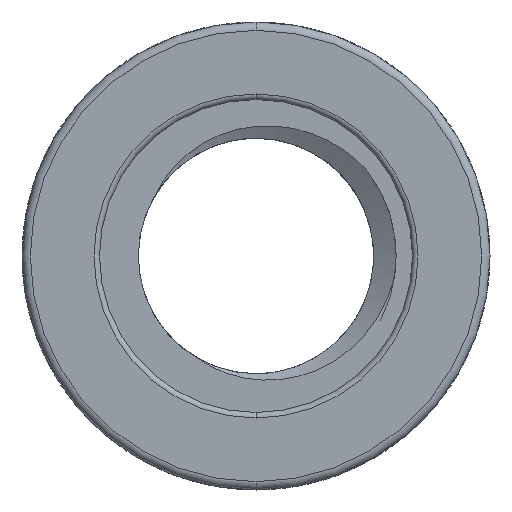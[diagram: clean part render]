
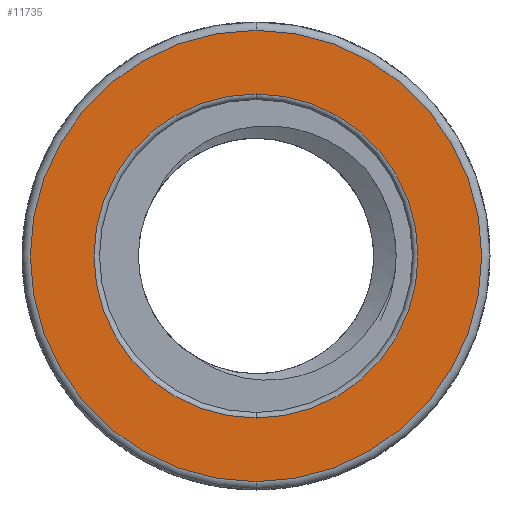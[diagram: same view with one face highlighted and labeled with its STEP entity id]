
A CAD part, front view. The second image highlights one B-rep face of the part: STEP entity #11735.
In plain terms, the highlighted planar face has unit normal (0, -1, 0).
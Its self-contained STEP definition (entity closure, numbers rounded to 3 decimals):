
#688 = EDGE_CURVE ( 'NONE', #20865, #44508, #41291, .T. ) ;
#6126 = CIRCLE ( 'NONE', #35587, 8.15 ) ;
#6156 = DIRECTION ( 'NONE',  ( 0., 0., -1. ) ) ;
#6438 = CIRCLE ( 'NONE', #52647, 8.15 ) ;
#7306 = ORIENTED_EDGE ( 'NONE', *, *, #688, .T. ) ;
#8062 = CARTESIAN_POINT ( 'NONE',  ( 0., 0., 0. ) ) ;
#8861 = DIRECTION ( 'NONE',  ( 0., 0., -1. ) ) ;
#9146 = DIRECTION ( 'NONE',  ( 0., -1., 0. ) ) ;
#11735 = ADVANCED_FACE ( 'NONE', ( #56581, #52257 ), #12614, .T. ) ;
#12614 = PLANE ( 'NONE',  #33036 ) ;
#13914 = EDGE_LOOP ( 'NONE', ( #7306, #43885 ) ) ;
#15155 = EDGE_CURVE ( 'NONE', #44508, #20865, #18771, .T. ) ;
#18165 = CARTESIAN_POINT ( 'NONE',  ( 0., 0., 5.85 ) ) ;
#18538 = EDGE_CURVE ( 'NONE', #38781, #29285, #6126, .T. ) ;
#18771 = CIRCLE ( 'NONE', #26157, 5.85 ) ;
#20865 = VERTEX_POINT ( 'NONE', #33512 ) ;
#23841 = ORIENTED_EDGE ( 'NONE', *, *, #41841, .T. ) ;
#24765 = DIRECTION ( 'NONE',  ( 0., 0., -1. ) ) ;
#24880 = DIRECTION ( 'NONE',  ( 0., 0., -1. ) ) ;
#25594 = AXIS2_PLACEMENT_3D ( 'NONE', #32217, #37683, #6156 ) ;
#26157 = AXIS2_PLACEMENT_3D ( 'NONE', #8062, #38181, #24880 ) ;
#27315 = DIRECTION ( 'NONE',  ( 0., -1., 0. ) ) ;
#29285 = VERTEX_POINT ( 'NONE', #49616 ) ;
#30529 = CARTESIAN_POINT ( 'NONE',  ( 0., 0., 0. ) ) ;
#30559 = EDGE_LOOP ( 'NONE', ( #31732, #23841 ) ) ;
#31732 = ORIENTED_EDGE ( 'NONE', *, *, #18538, .T. ) ;
#32217 = CARTESIAN_POINT ( 'NONE',  ( 0., 0., 0. ) ) ;
#33036 = AXIS2_PLACEMENT_3D ( 'NONE', #56873, #9146, #8861 ) ;
#33512 = CARTESIAN_POINT ( 'NONE',  ( 0., 0., -5.85 ) ) ;
#34612 = CARTESIAN_POINT ( 'NONE',  ( 0., 0., -8.15 ) ) ;
#35587 = AXIS2_PLACEMENT_3D ( 'NONE', #48729, #27315, #53349 ) ;
#37683 = DIRECTION ( 'NONE',  ( 0., 1., 0. ) ) ;
#38181 = DIRECTION ( 'NONE',  ( 0., 1., 0. ) ) ;
#38640 = DIRECTION ( 'NONE',  ( 0., -1., 0. ) ) ;
#38781 = VERTEX_POINT ( 'NONE', #34612 ) ;
#41291 = CIRCLE ( 'NONE', #25594, 5.85 ) ;
#41841 = EDGE_CURVE ( 'NONE', #29285, #38781, #6438, .T. ) ;
#43885 = ORIENTED_EDGE ( 'NONE', *, *, #15155, .T. ) ;
#44508 = VERTEX_POINT ( 'NONE', #18165 ) ;
#48729 = CARTESIAN_POINT ( 'NONE',  ( 0., 0., 0. ) ) ;
#49616 = CARTESIAN_POINT ( 'NONE',  ( 0., 0., 8.15 ) ) ;
#52257 = FACE_OUTER_BOUND ( 'NONE', #30559, .T. ) ;
#52647 = AXIS2_PLACEMENT_3D ( 'NONE', #30529, #38640, #24765 ) ;
#53349 = DIRECTION ( 'NONE',  ( 0., 0., -1. ) ) ;
#56581 = FACE_BOUND ( 'NONE', #13914, .T. ) ;
#56873 = CARTESIAN_POINT ( 'NONE',  ( 0., 0., -8.45 ) ) ;
